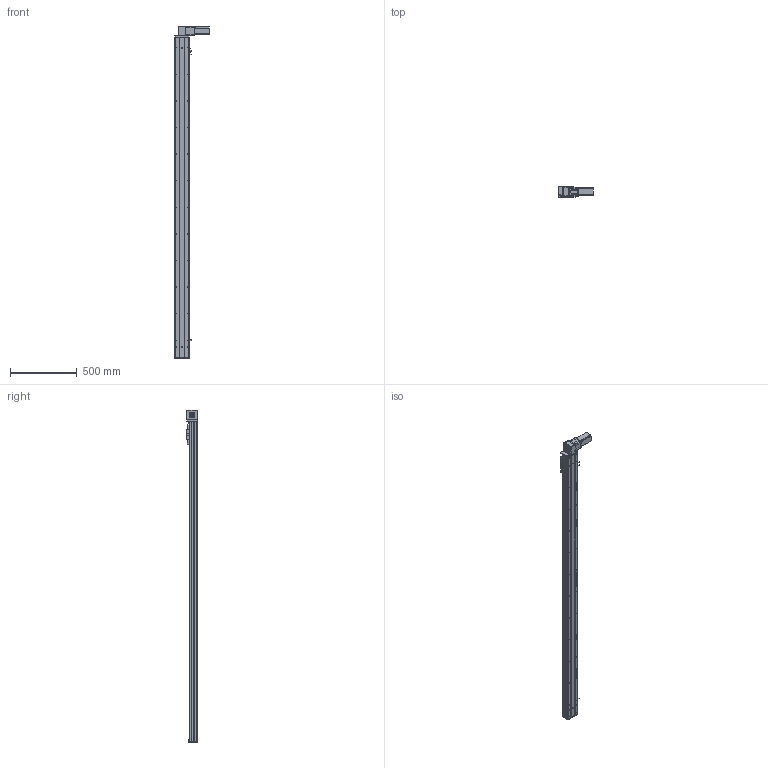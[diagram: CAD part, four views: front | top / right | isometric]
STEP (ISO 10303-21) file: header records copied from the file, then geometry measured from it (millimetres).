
FILE_DESCRIPTION (( 'STEP AP203' ), '1' );
FILE_NAME ('Y10CB-D90-S2150-BD-P400W.STEP', '2020-02-17T02:57:43', ( '微软用户' ), ( '微软中国' ), 'SwSTEP 2.0', 'SolidWorks 2017', '' );
FILE_SCHEMA (( 'CONFIG_CONTROL_DESIGN' ));
Length unit declared in the file: millimetre
Products named in the file (16): 0B-薊粣ん眊; 10CB-詩湍-; Y10CB-D90-S2150-BD-P400W; Y10CB- 掛极耜裔啣-毀---; Y10C---詩湍揤啣; 0CB-雄赽釱---; 10CB9-掛极; 0Cb-俋欶---; 10CB-耜裔; Y10B-々湍喘謫眊楊擘啣--; Y135C-陔俋离換覜結え-; san松下电机400不带刹车----; Y100-135俋离換覜ん--; 0B-源倛裔啣; Y10B--々湍喘謫眊--666; 0B-埴倛裔啣
Assembly tree (19 placements, depth 2):
  Y10CB-D90-S2150-BD-P400W
    0CB-雄赽釱---
    0Cb-俋欶---
    Y10B-々湍喘謫眊楊擘啣--
    san松下电机400不带刹车----
    0B-源倛裔啣
    0B-埴倛裔啣
    10CB-詩湍-
    Y10CB- 掛极耜裔啣-毀---  x2
    Y10C---詩湍揤啣  x2
    10CB9-掛极
    10CB-耜裔
    Y135C-陔俋离換覜結え-
    Y100-135俋离換覜ん--  x3
    Y10B--々湍喘謫眊--666
    0B-薊粣ん眊
Bounding box: 258 x 80.5 x 2496 mm (x, y, z)
Volume: 5142836.3 mm3; surface area: 2380343.5 mm2
Topology: 19 solids, 19 shells, 972 faces, 2622 edges, 1700 vertices
Faces by surface type: cylinder 500, plane 448, cone 24
Entity records: 30569 total; most frequent: CARTESIAN_POINT 5792, DIRECTION 4865, ORIENTED_EDGE 4714, EDGE_CURVE 2357, AXIS2_PLACEMENT_3D 1743, VERTEX_POINT 1526, LINE 1379, VECTOR 1379
